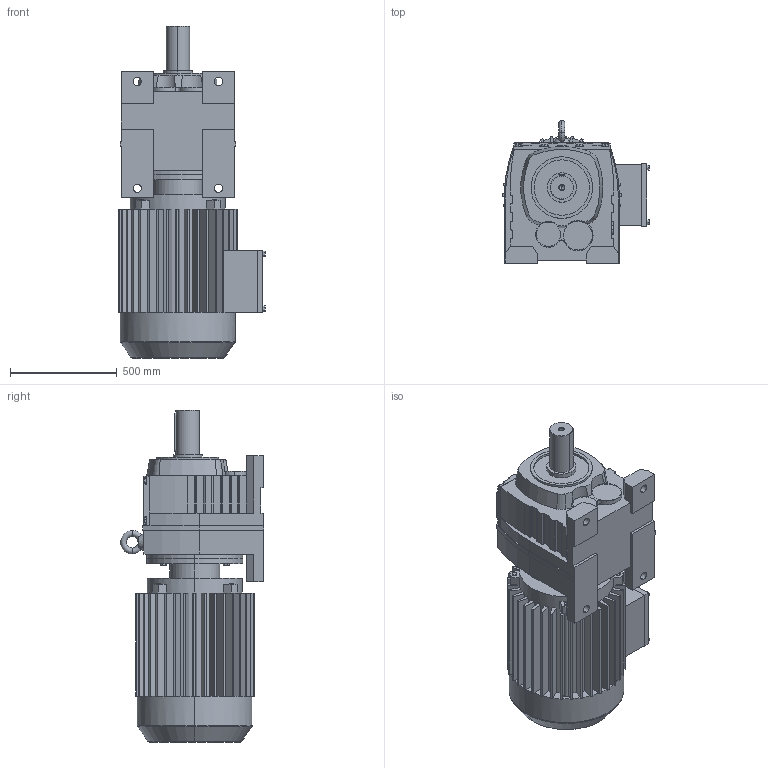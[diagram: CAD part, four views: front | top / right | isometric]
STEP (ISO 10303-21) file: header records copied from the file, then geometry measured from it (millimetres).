
FILE_DESCRIPTION(('Open CASCADE Model'),'2;1');
FILE_NAME('Open CASCADE Shape Model','2021-06-29T14:50:24',('Author'),( 'Open CASCADE'),'Open CASCADE STEP processor 6.3','Open CASCADE 6.3' ,'Unknown');
FILE_SCHEMA(('AUTOMOTIVE_DESIGN_CC2 { 1 2 10303 214 -1 1 5 4 }'));
Length unit declared in the file: millimetre
Products named in the file (3): 1_R147-Y280S; R37‵167_147.step; 萇儂_450_Y280S.step
Assembly tree (2 placements, depth 2):
  1_R147-Y280S
    R37‵167_147.step
    萇儂_450_Y280S.step
Bounding box: 687.5 x 670 x 1555 mm (x, y, z)
Volume: 288035977.1 mm3; surface area: 5669510.8 mm2
Topology: 2 solids, 2 shells, 730 faces, 1936 edges, 1251 vertices
Faces by surface type: plane 515, cylinder 185, cone 20, torus 10
Entity records: 50973 total; most frequent: CARTESIAN_POINT 14050, DIRECTION 6436, ORIENTED_EDGE 3868, PCURVE 3868, DEFINITIONAL_REPRESENTATION 3868, LINE 3587, VECTOR 3587, EDGE_CURVE 1934
